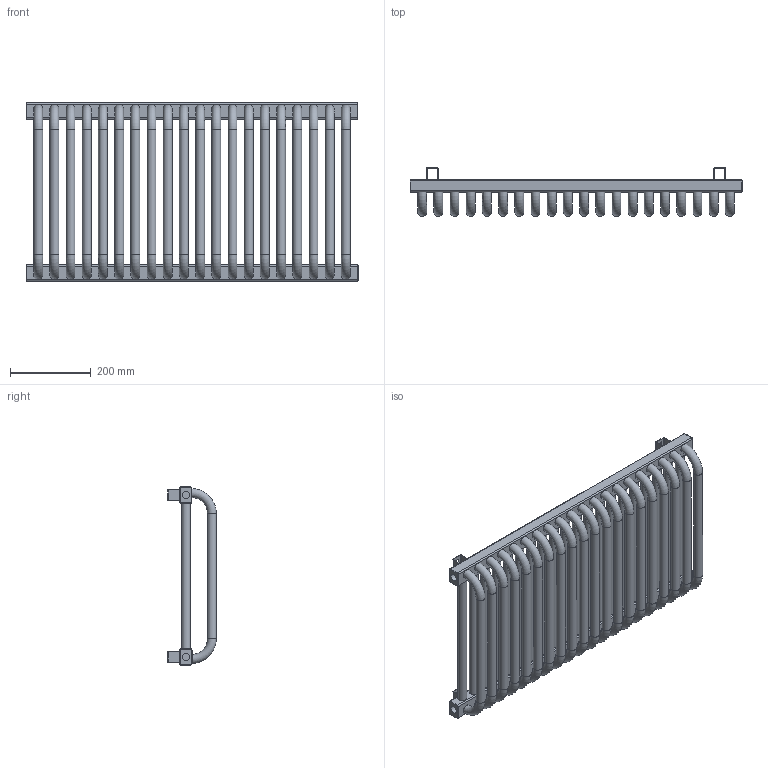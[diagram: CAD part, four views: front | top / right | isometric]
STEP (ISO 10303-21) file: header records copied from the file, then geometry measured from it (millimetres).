
FILE_DESCRIPTION((''),'2;1');
FILE_NAME('Z:\R\G\P\RGPH03 - Grzejnik Dobus\Work\Inventor\Marketing\STEP\DF-44-82-L6.stp','2012-07-25T11:25:08',('PioRo'),(''),'Autodesk Inventor 2012','Autodesk Inventor 2012','');
FILE_SCHEMA(('CONFIG_CONTROL_DESIGN'));
Length unit declared in the file: millimetre
Products named in the file (1): Część1
Bounding box: 820 x 120 x 440 mm (x, y, z)
Volume: 8229566.1 mm3; surface area: 1354632.9 mm2
Topology: 5 solids, 5 shells, 230 faces, 573 edges, 358 vertices
Faces by surface type: cylinder 95, plane 79, torus 56
Full cylindrical faces by diameter (mm): 0.1 x4, 18.631 x3, 22 x40
Entity records: 9333 total; most frequent: CARTESIAN_POINT 3675, DIRECTION 1114, ORIENTED_EDGE 972, EDGE_CURVE 486, AXIS2_PLACEMENT_3D 437, EDGE_LOOP 408, VERTEX_POINT 358, VECTOR 240
